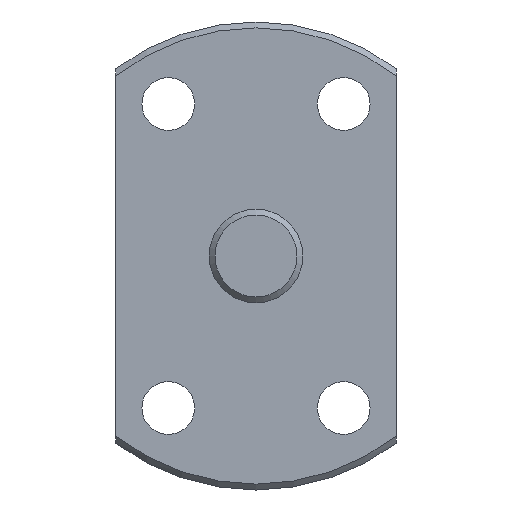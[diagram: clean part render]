
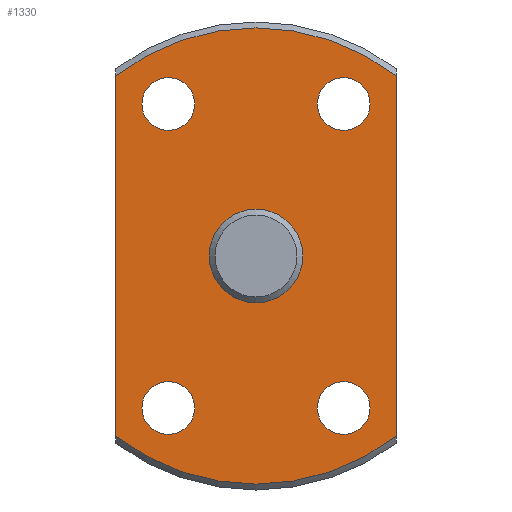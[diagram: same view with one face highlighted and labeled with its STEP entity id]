
A CAD part, left-side view. The second image highlights one B-rep face of the part: STEP entity #1330.
In plain terms, the highlighted planar face has unit normal (-1, 0, 0).
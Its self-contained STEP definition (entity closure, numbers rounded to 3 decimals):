
#312=CARTESIAN_POINT('',(82.352,-12.,15.37));
#313=VERTEX_POINT('',#312);
#338=CARTESIAN_POINT('',(82.352,12.,15.37));
#339=VERTEX_POINT('',#338);
#353=CARTESIAN_POINT('',(82.352,0.0,0.0));
#354=DIRECTION('',(1.0,0.0,0.0));
#355=DIRECTION('',(0.0,1.0,0.0));
#356=AXIS2_PLACEMENT_3D('',#353,#354,#355);
#357=CIRCLE('',#356,19.5);
#358=EDGE_CURVE('',#339,#313,#357,.T.);
#401=CARTESIAN_POINT('',(82.352,-12.,-15.37));
#402=VERTEX_POINT('',#401);
#403=CARTESIAN_POINT('',(82.352,-12.,15.37));
#404=DIRECTION('',(0.0,0.0,-1.0));
#405=VECTOR('',#404,30.741);
#406=LINE('',#403,#405);
#407=EDGE_CURVE('',#313,#402,#406,.T.);
#477=CARTESIAN_POINT('',(82.352,12.,-15.37));
#478=VERTEX_POINT('',#477);
#502=CARTESIAN_POINT('',(82.352,0.0,0.0));
#503=DIRECTION('',(1.0,0.0,0.0));
#504=DIRECTION('',(0.0,1.0,0.0));
#505=AXIS2_PLACEMENT_3D('',#502,#503,#504);
#506=CIRCLE('',#505,19.5);
#507=EDGE_CURVE('',#402,#478,#506,.T.);
#582=CARTESIAN_POINT('',(82.352,12.,-15.37));
#583=DIRECTION('',(0.0,0.0,1.0));
#584=VECTOR('',#583,30.741);
#585=LINE('',#582,#584);
#586=EDGE_CURVE('',#478,#339,#585,.T.);
#809=CARTESIAN_POINT('',(82.352,4.0,0.));
#810=VERTEX_POINT('',#809);
#811=CARTESIAN_POINT('',(82.352,0.0,0.0));
#812=DIRECTION('',(1.0,0.0,0.0));
#813=DIRECTION('',(0.0,-1.0,0.0));
#814=AXIS2_PLACEMENT_3D('',#811,#812,#813);
#815=CIRCLE('',#814,4.0);
#816=EDGE_CURVE('',#810,#810,#815,.T.);
#829=CARTESIAN_POINT('',(82.352,9.75,-12.99));
#830=VERTEX_POINT('',#829);
#831=CARTESIAN_POINT('',(82.352,7.5,-12.99));
#832=DIRECTION('',(1.0,0.0,0.0));
#833=DIRECTION('',(0.0,1.0,0.0));
#834=AXIS2_PLACEMENT_3D('',#831,#832,#833);
#835=CIRCLE('',#834,2.25);
#836=EDGE_CURVE('',#830,#830,#835,.T.);
#849=CARTESIAN_POINT('',(82.352,-5.25,12.99));
#850=VERTEX_POINT('',#849);
#851=CARTESIAN_POINT('',(82.352,-7.5,12.99));
#852=DIRECTION('',(1.0,0.0,0.0));
#853=DIRECTION('',(0.0,1.0,0.0));
#854=AXIS2_PLACEMENT_3D('',#851,#852,#853);
#855=CIRCLE('',#854,2.25);
#856=EDGE_CURVE('',#850,#850,#855,.T.);
#869=CARTESIAN_POINT('',(82.352,9.75,12.99));
#870=VERTEX_POINT('',#869);
#871=CARTESIAN_POINT('',(82.352,7.5,12.99));
#872=DIRECTION('',(1.0,0.0,0.0));
#873=DIRECTION('',(0.0,1.0,0.0));
#874=AXIS2_PLACEMENT_3D('',#871,#872,#873);
#875=CIRCLE('',#874,2.25);
#876=EDGE_CURVE('',#870,#870,#875,.T.);
#889=CARTESIAN_POINT('',(82.352,-5.25,-12.99));
#890=VERTEX_POINT('',#889);
#891=CARTESIAN_POINT('',(82.352,-7.5,-12.99));
#892=DIRECTION('',(1.0,0.0,0.0));
#893=DIRECTION('',(0.0,1.0,0.0));
#894=AXIS2_PLACEMENT_3D('',#891,#892,#893);
#895=CIRCLE('',#894,2.25);
#896=EDGE_CURVE('',#890,#890,#895,.T.);
#1304=CARTESIAN_POINT('',(82.352,0.0,0.0));
#1305=DIRECTION('',(-1.0,0.0,0.0));
#1306=DIRECTION('',(0.0,0.0,1.0));
#1307=AXIS2_PLACEMENT_3D('',#1304,#1305,#1306);
#1308=PLANE('',#1307);
#1309=ORIENTED_EDGE('',*,*,#358,.F.);
#1310=ORIENTED_EDGE('',*,*,#586,.F.);
#1311=ORIENTED_EDGE('',*,*,#507,.F.);
#1312=ORIENTED_EDGE('',*,*,#407,.F.);
#1313=EDGE_LOOP('',(#1309,#1310,#1311,#1312));
#1314=FACE_OUTER_BOUND('',#1313,.T.);
#1315=ORIENTED_EDGE('',*,*,#816,.T.);
#1316=EDGE_LOOP('',(#1315));
#1317=FACE_BOUND('',#1316,.T.);
#1318=ORIENTED_EDGE('',*,*,#836,.T.);
#1319=EDGE_LOOP('',(#1318));
#1320=FACE_BOUND('',#1319,.T.);
#1321=ORIENTED_EDGE('',*,*,#856,.T.);
#1322=EDGE_LOOP('',(#1321));
#1323=FACE_BOUND('',#1322,.T.);
#1324=ORIENTED_EDGE('',*,*,#876,.T.);
#1325=EDGE_LOOP('',(#1324));
#1326=FACE_BOUND('',#1325,.T.);
#1327=ORIENTED_EDGE('',*,*,#896,.T.);
#1328=EDGE_LOOP('',(#1327));
#1329=FACE_BOUND('',#1328,.T.);
#1330=ADVANCED_FACE('',(#1314,#1317,#1320,#1323,#1326,#1329),#1308,.T.);
